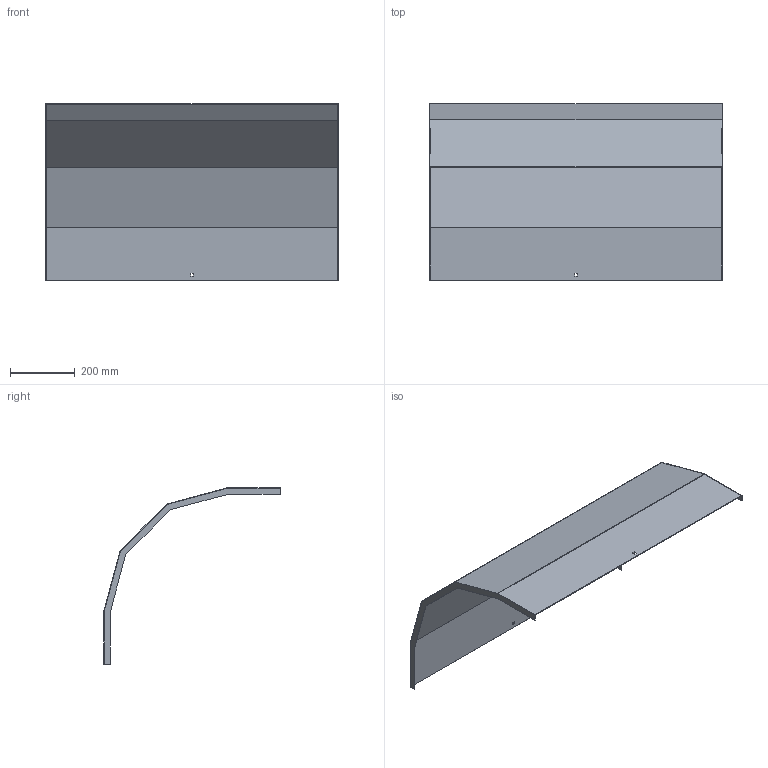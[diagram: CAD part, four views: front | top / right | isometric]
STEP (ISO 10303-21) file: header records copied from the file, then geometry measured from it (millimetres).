
FILE_DESCRIPTION (( 'STEP AP214' ), '1' );
FILE_NAME ('A2_33N3C900.step', '2025-02-21T10:44:46', ( '' ), ( '' ), 'SwSTEP 2.0', 'SolidWorks 2023', '' );
FILE_SCHEMA (( 'AUTOMOTIVE_DESIGN' ));
Length unit declared in the file: millimetre
Products named in the file (1): A2_33N3C900
Bounding box: 903 x 544.46 x 544.46 mm (x, y, z)
Volume: 1290172.1 mm3; surface area: 1725801.1 mm2
Topology: 1 solids, 1 shells, 34 faces, 96 edges, 64 vertices
Faces by surface type: plane 34
Entity records: 1111 total; most frequent: CARTESIAN_POINT 195, ORIENTED_EDGE 192, DIRECTION 166, VECTOR 96, LINE 96, EDGE_CURVE 96, VERTEX_POINT 64, EDGE_LOOP 38
